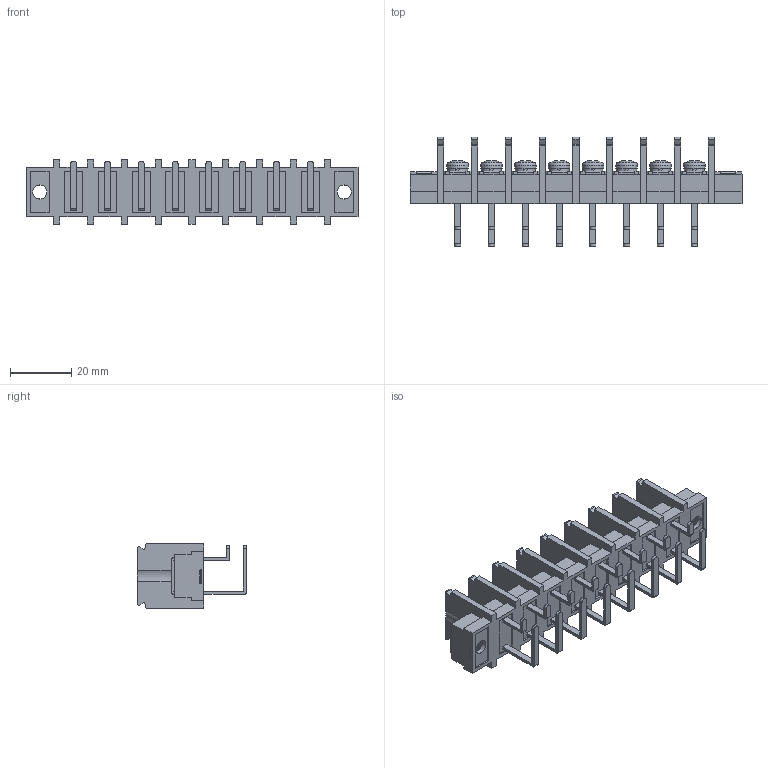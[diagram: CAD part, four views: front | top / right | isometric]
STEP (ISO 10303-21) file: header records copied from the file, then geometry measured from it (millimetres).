
FILE_DESCRIPTION(/* description */ ('Alibre Inc.'),/* implementation_level */ '2;1');
FILE_NAME(/* name */ 'export0',/* time_stamp */ '2015-12-02T13:02:14+09:00',/* author */ (''),/* organization */ (''),/* preprocessor_version */ 'ST-DEVELOPER v14',/* originating_system */ 'Alibre',/* authorisation */ '');
FILE_SCHEMA (('CONFIG_CONTROL_DESIGN'));
Length unit declared in the file: centimetre
Products named in the file (1): ID_1
Bounding box: 108 x 35.5 x 21 mm (x, y, z)
Volume: 18387.8 mm3; surface area: 20887.7 mm2
Topology: 1 solids, 17 shells, 1330 faces, 3654 edges, 2426 vertices
Faces by surface type: plane 1046, cylinder 124, bspline 104, cone 40, torus 8, sphere 8
Full cylindrical faces by diameter (mm): 4 x8, 4.55 x2, 4.6 x2, 6.5 x8, 7 x8
Entity records: 40279 total; most frequent: CARTESIAN_POINT 8394, ORIENTED_EDGE 7232, DIRECTION 5055, EDGE_CURVE 3616, VECTOR 2789, LINE 2789, VERTEX_POINT 2424, AXIS2_PLACEMENT_3D 1613
